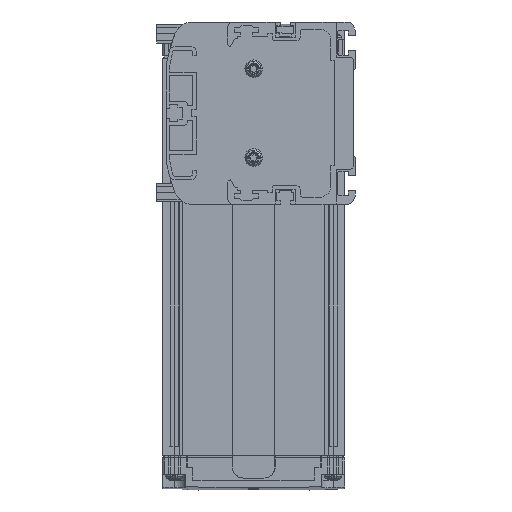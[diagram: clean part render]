
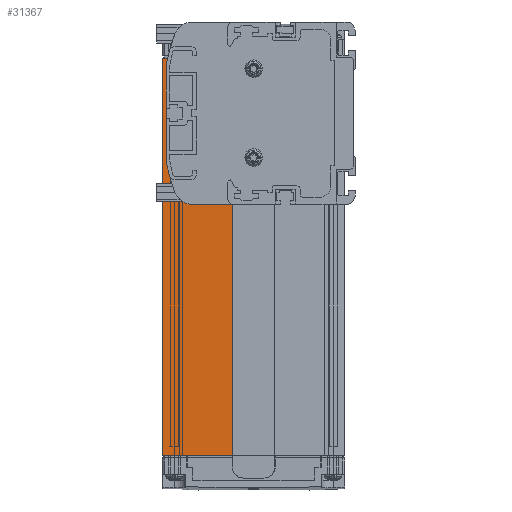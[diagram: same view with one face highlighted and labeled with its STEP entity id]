
A CAD part, left-side view. The second image highlights one B-rep face of the part: STEP entity #31367.
In plain terms, the highlighted planar face has unit normal (-1, 0, 0).
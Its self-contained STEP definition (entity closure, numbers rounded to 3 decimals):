
#4850=CARTESIAN_POINT('',(3.,79.,19.823));
#4851=DIRECTION('',(1.,0.,0.));
#4852=DIRECTION('',(0.,1.,0.));
#4853=AXIS2_PLACEMENT_3D('',#4850,#4851,#4852);
#4863=DIRECTION('',(0.,0.,1.));
#4864=VECTOR('',#4863,39.645);
#4865=CARTESIAN_POINT('',(3.,81.,-19.823));
#4866=LINE('',#4865,#4864);
#4903=CARTESIAN_POINT('',(3.,79.,-19.823));
#4904=DIRECTION('',(-1.,0.,0.));
#4905=DIRECTION('',(0.,1.,0.));
#4906=AXIS2_PLACEMENT_3D('',#4903,#4904,#4905);
#4912=CARTESIAN_POINT('',(3.,2.235,-6.));
#4913=DIRECTION('',(1.,0.,0.));
#4914=DIRECTION('',(0.,0.938,-0.347));
#4915=AXIS2_PLACEMENT_3D('',#4912,#4913,#4914);
#5247=CARTESIAN_POINT('',(3.,2.235,6.));
#5248=DIRECTION('',(1.,0.,0.));
#5249=DIRECTION('',(0.,0.984,0.177));
#5250=AXIS2_PLACEMENT_3D('',#5247,#5248,#5249);
#5265=DIRECTION('',(0.,-1.,0.));
#5266=VECTOR('',#5265,29.9);
#5267=CARTESIAN_POINT('',(3.,82.5,-146.5));
#5268=LINE('',#5267,#5266);
#5269=DIRECTION('',(0.,1.,0.));
#5270=VECTOR('',#5269,2.203);
#5271=CARTESIAN_POINT('',(3.,80.297,23.5));
#5272=LINE('',#5271,#5270);
#5273=DIRECTION('',(0.,-1.,0.));
#5274=VECTOR('',#5273,17.155);
#5275=CARTESIAN_POINT('',(3.,69.755,-39.));
#5276=LINE('',#5275,#5274);
#5311=CARTESIAN_POINT('',(3.,69.755,-31.));
#5312=DIRECTION('',(1.,0.,0.));
#5313=DIRECTION('',(0.,0.,-1.));
#5314=AXIS2_PLACEMENT_3D('',#5311,#5312,#5313);
#11201=DIRECTION('',(0.,0.,1.));
#11202=VECTOR('',#11201,170.);
#11203=CARTESIAN_POINT('',(3.,82.5,-146.5));
#11204=LINE('',#11203,#11202);
#13538=DIRECTION('',(0.,0.,1.));
#13539=VECTOR('',#13538,107.5);
#13540=CARTESIAN_POINT('',(3.,52.6,-146.5));
#13541=LINE('',#13540,#13539);
#19428=CARTESIAN_POINT('',(3.,82.5,23.5));
#19429=VERTEX_POINT('',#19428);
#19474=CARTESIAN_POINT('',(3.,82.5,-146.5));
#19475=VERTEX_POINT('',#19474);
#19476=CARTESIAN_POINT('',(3.,52.6,-146.5));
#19477=VERTEX_POINT('',#19476);
#23831=CARTESIAN_POINT('',(3.,69.755,-39.));
#23832=CARTESIAN_POINT('',(3.,52.6,-39.));
#23833=VERTEX_POINT('',#23831);
#23834=VERTEX_POINT('',#23832);
#23835=CARTESIAN_POINT('',(3.,80.297,23.5));
#23837=VERTEX_POINT('',#23835);
#23859=CARTESIAN_POINT('',(3.,81.,-19.823));
#23860=CARTESIAN_POINT('',(3.,80.968,-20.177));
#23861=VERTEX_POINT('',#23859);
#23862=VERTEX_POINT('',#23860);
#23863=CARTESIAN_POINT('',(3.,77.257,-33.778));
#23864=VERTEX_POINT('',#23863);
#23877=CARTESIAN_POINT('',(3.,80.968,20.177));
#23878=VERTEX_POINT('',#23877);
#23879=CARTESIAN_POINT('',(3.,81.,19.823));
#23880=VERTEX_POINT('',#23879);
#31343=CARTESIAN_POINT('',(3.,67.55,-61.5));
#31344=DIRECTION('',(1.,0.,0.));
#31345=DIRECTION('',(0.,1.,0.));
#31346=AXIS2_PLACEMENT_3D('',#31343,#31344,#31345);
#31347=PLANE('',#31346);
#31349=ORIENTED_EDGE('',*,*,#31348,.T.);
#31351=ORIENTED_EDGE('',*,*,#31350,.F.);
#31353=ORIENTED_EDGE('',*,*,#31352,.F.);
#31355=ORIENTED_EDGE('',*,*,#31354,.T.);
#31357=ORIENTED_EDGE('',*,*,#31356,.F.);
#31358=ORIENTED_EDGE('',*,*,#31327,.F.);
#31359=ORIENTED_EDGE('',*,*,#30759,.F.);
#31360=ORIENTED_EDGE('',*,*,#30774,.F.);
#31361=ORIENTED_EDGE('',*,*,#30813,.T.);
#31362=ORIENTED_EDGE('',*,*,#30830,.F.);
#31364=ORIENTED_EDGE('',*,*,#31363,.F.);
#31365=EDGE_LOOP('',(#31349,#31351,#31353,#31355,#31357,#31358,#31359,#31360,
#31361,#31362,#31364));
#31366=FACE_OUTER_BOUND('',#31365,.F.);
#31367=ADVANCED_FACE('',(#31366),#31347,.F.);
#4854=CIRCLE('',#4853,2.);
#4907=CIRCLE('',#4906,2.);
#4916=CIRCLE('',#4915,80.);
#5251=CIRCLE('',#5250,80.);
#5315=CIRCLE('',#5314,8.);
#30759=EDGE_CURVE('',#23880,#23878,#4854,.T.);
#30774=EDGE_CURVE('',#23861,#23880,#4866,.T.);
#30813=EDGE_CURVE('',#23861,#23862,#4907,.T.);
#30830=EDGE_CURVE('',#23864,#23862,#4916,.T.);
#31327=EDGE_CURVE('',#23878,#23837,#5251,.T.);
#31348=EDGE_CURVE('',#23833,#23834,#5276,.T.);
#31350=EDGE_CURVE('',#19477,#23834,#13541,.T.);
#31352=EDGE_CURVE('',#19475,#19477,#5268,.T.);
#31354=EDGE_CURVE('',#19475,#19429,#11204,.T.);
#31356=EDGE_CURVE('',#23837,#19429,#5272,.T.);
#31363=EDGE_CURVE('',#23833,#23864,#5315,.T.);
